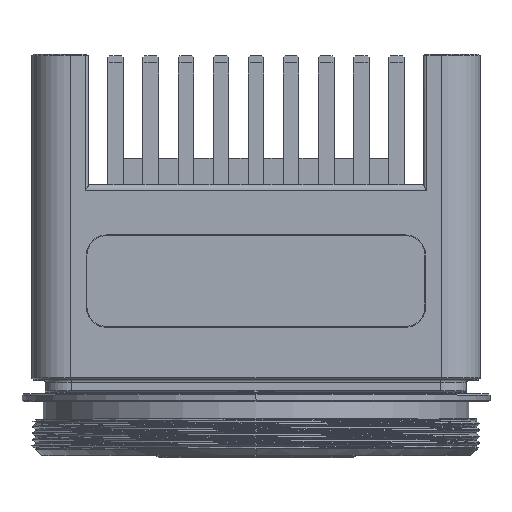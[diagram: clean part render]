
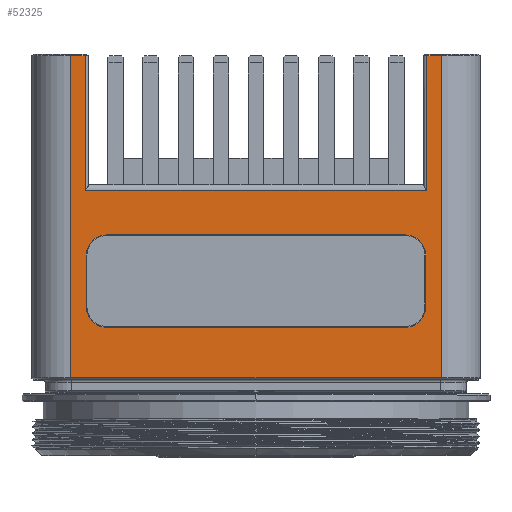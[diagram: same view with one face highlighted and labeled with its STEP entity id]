
A CAD part, top view. The second image highlights one B-rep face of the part: STEP entity #52325.
In plain terms, the highlighted planar face has unit normal (0, 0, 1).
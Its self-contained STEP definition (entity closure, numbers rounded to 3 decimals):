
#786=DIRECTION('',(-1.,0.,0.));
#787=VECTOR('',#786,52.6);
#788=CARTESIAN_POINT('',(26.3,3.,57.5));
#789=LINE('',#788,#787);
#948=DIRECTION('',(0.,1.,0.));
#949=VECTOR('',#948,49.6);
#950=CARTESIAN_POINT('',(-28.5,-25.8,57.5));
#951=LINE('',#950,#949);
#955=DIRECTION('',(1.,0.,0.));
#956=VECTOR('',#955,2.2);
#957=CARTESIAN_POINT('',(26.3,23.8,57.5));
#958=LINE('',#957,#956);
#962=DIRECTION('',(0.,-1.,0.));
#963=VECTOR('',#962,49.6);
#964=CARTESIAN_POINT('',(28.5,23.8,57.5));
#965=LINE('',#964,#963);
#969=DIRECTION('',(-1.,0.,0.));
#970=VECTOR('',#969,57.);
#971=CARTESIAN_POINT('',(28.5,-25.8,57.5));
#972=LINE('',#971,#970);
#976=CARTESIAN_POINT('',(-23.,-6.9,57.5));
#977=DIRECTION('',(0.,0.,1.));
#978=DIRECTION('',(0.,1.,0.));
#979=AXIS2_PLACEMENT_3D('',#976,#977,#978);
#984=DIRECTION('',(0.,-1.,0.));
#985=VECTOR('',#984,8.);
#986=CARTESIAN_POINT('',(-26.1,-6.9,57.5));
#987=LINE('',#986,#985);
#991=CARTESIAN_POINT('',(-23.,-14.9,57.5));
#992=DIRECTION('',(0.,0.,1.));
#993=DIRECTION('',(-1.,0.,0.));
#994=AXIS2_PLACEMENT_3D('',#991,#992,#993);
#999=DIRECTION('',(1.,0.,0.));
#1000=VECTOR('',#999,46.);
#1001=CARTESIAN_POINT('',(-23.,-18.,57.5));
#1002=LINE('',#1001,#1000);
#1006=CARTESIAN_POINT('',(23.,-14.9,57.5));
#1007=DIRECTION('',(0.,0.,1.));
#1008=DIRECTION('',(0.,-1.,0.));
#1009=AXIS2_PLACEMENT_3D('',#1006,#1007,#1008);
#1014=DIRECTION('',(0.,1.,0.));
#1015=VECTOR('',#1014,8.);
#1016=CARTESIAN_POINT('',(26.1,-14.9,57.5));
#1017=LINE('',#1016,#1015);
#1021=CARTESIAN_POINT('',(23.,-6.9,57.5));
#1022=DIRECTION('',(0.,0.,1.));
#1023=DIRECTION('',(1.,0.,0.));
#1024=AXIS2_PLACEMENT_3D('',#1021,#1022,#1023);
#1029=DIRECTION('',(-1.,0.,0.));
#1030=VECTOR('',#1029,46.);
#1031=CARTESIAN_POINT('',(23.,-3.8,57.5));
#1032=LINE('',#1031,#1030);
#1856=DIRECTION('',(0.,-1.,0.));
#1857=VECTOR('',#1856,20.8);
#1858=CARTESIAN_POINT('',(26.3,23.8,57.5));
#1859=LINE('',#1858,#1857);
#30400=DIRECTION('',(0.,1.,0.));
#30401=VECTOR('',#30400,20.8);
#30402=CARTESIAN_POINT('',(-26.3,3.,57.5));
#30403=LINE('',#30402,#30401);
#30422=DIRECTION('',(-1.,0.,0.));
#30423=VECTOR('',#30422,2.2);
#30424=CARTESIAN_POINT('',(-26.3,23.8,
57.5));
#30425=LINE('',#30424,#30423);
#45998=CARTESIAN_POINT('',(26.3,3.,57.5));
#45999=CARTESIAN_POINT('',(-26.3,3.,57.5));
#46000=VERTEX_POINT('',#45998);
#46001=VERTEX_POINT('',#45999);
#46005=CARTESIAN_POINT('',(-28.5,-25.8,57.5));
#46006=CARTESIAN_POINT('',(-28.5,23.8,
57.5));
#46007=VERTEX_POINT('',#46005);
#46008=VERTEX_POINT('',#46006);
#46009=CARTESIAN_POINT('',(-26.3,23.8,
57.5));
#46010=VERTEX_POINT('',#46009);
#46011=CARTESIAN_POINT('',(26.3,23.8,57.5));
#46012=VERTEX_POINT('',#46011);
#46013=CARTESIAN_POINT('',(28.5,23.8,57.5));
#46014=VERTEX_POINT('',#46013);
#46015=CARTESIAN_POINT('',(28.5,-25.8,
57.5));
#46016=VERTEX_POINT('',#46015);
#46017=CARTESIAN_POINT('',(-23.,-3.8,57.5));
#46018=CARTESIAN_POINT('',(-26.1,-6.9,57.5));
#46019=VERTEX_POINT('',#46017);
#46020=VERTEX_POINT('',#46018);
#46021=CARTESIAN_POINT('',(-26.1,-14.9,57.5));
#46022=VERTEX_POINT('',#46021);
#46023=CARTESIAN_POINT('',(-23.,-18.,57.5));
#46024=VERTEX_POINT('',#46023);
#46025=CARTESIAN_POINT('',(23.,-18.,57.5));
#46026=VERTEX_POINT('',#46025);
#46027=CARTESIAN_POINT('',(26.1,-14.9,57.5));
#46028=VERTEX_POINT('',#46027);
#46029=CARTESIAN_POINT('',(26.1,-6.9,57.5));
#46030=VERTEX_POINT('',#46029);
#46031=CARTESIAN_POINT('',(23.,-3.8,57.5));
#46032=VERTEX_POINT('',#46031);
#52285=CARTESIAN_POINT('',(36.,36.75,57.5));
#52286=DIRECTION('',(0.,0.,1.));
#52287=DIRECTION('',(-1.,0.,0.));
#52288=AXIS2_PLACEMENT_3D('',#52285,#52286,#52287);
#52289=PLANE('',#52288);
#52291=ORIENTED_EDGE('',*,*,#52290,.T.);
#52293=ORIENTED_EDGE('',*,*,#52292,.F.);
#52295=ORIENTED_EDGE('',*,*,#52294,.F.);
#52296=ORIENTED_EDGE('',*,*,#52245,.F.);
#52298=ORIENTED_EDGE('',*,*,#52297,.F.);
#52300=ORIENTED_EDGE('',*,*,#52299,.T.);
#52302=ORIENTED_EDGE('',*,*,#52301,.T.);
#52304=ORIENTED_EDGE('',*,*,#52303,.T.);
#52305=EDGE_LOOP('',(#52291,#52293,#52295,#52296,#52298,#52300,#52302,#52304));
#52306=FACE_OUTER_BOUND('',#52305,.F.);
#52308=ORIENTED_EDGE('',*,*,#52307,.T.);
#52310=ORIENTED_EDGE('',*,*,#52309,.T.);
#52312=ORIENTED_EDGE('',*,*,#52311,.T.);
#52314=ORIENTED_EDGE('',*,*,#52313,.T.);
#52316=ORIENTED_EDGE('',*,*,#52315,.T.);
#52318=ORIENTED_EDGE('',*,*,#52317,.T.);
#52320=ORIENTED_EDGE('',*,*,#52319,.T.);
#52322=ORIENTED_EDGE('',*,*,#52321,.T.);
#52323=EDGE_LOOP('',(#52308,#52310,#52312,#52314,#52316,#52318,#52320,#52322));
#52324=FACE_BOUND('',#52323,.F.);
#52325=ADVANCED_FACE('',(#52306,#52324),#52289,.T.);
#980=CIRCLE('',#979,3.1);
#995=CIRCLE('',#994,3.1);
#1010=CIRCLE('',#1009,3.1);
#1025=CIRCLE('',#1024,3.1);
#52245=EDGE_CURVE('',#46000,#46001,#789,.T.);
#52290=EDGE_CURVE('',#46007,#46008,#951,.T.);
#52292=EDGE_CURVE('',#46010,#46008,#30425,.T.);
#52294=EDGE_CURVE('',#46001,#46010,#30403,.T.);
#52297=EDGE_CURVE('',#46012,#46000,#1859,.T.);
#52299=EDGE_CURVE('',#46012,#46014,#958,.T.);
#52301=EDGE_CURVE('',#46014,#46016,#965,.T.);
#52303=EDGE_CURVE('',#46016,#46007,#972,.T.);
#52307=EDGE_CURVE('',#46019,#46020,#980,.T.);
#52309=EDGE_CURVE('',#46020,#46022,#987,.T.);
#52311=EDGE_CURVE('',#46022,#46024,#995,.T.);
#52313=EDGE_CURVE('',#46024,#46026,#1002,.T.);
#52315=EDGE_CURVE('',#46026,#46028,#1010,.T.);
#52317=EDGE_CURVE('',#46028,#46030,#1017,.T.);
#52319=EDGE_CURVE('',#46030,#46032,#1025,.T.);
#52321=EDGE_CURVE('',#46032,#46019,#1032,.T.);
